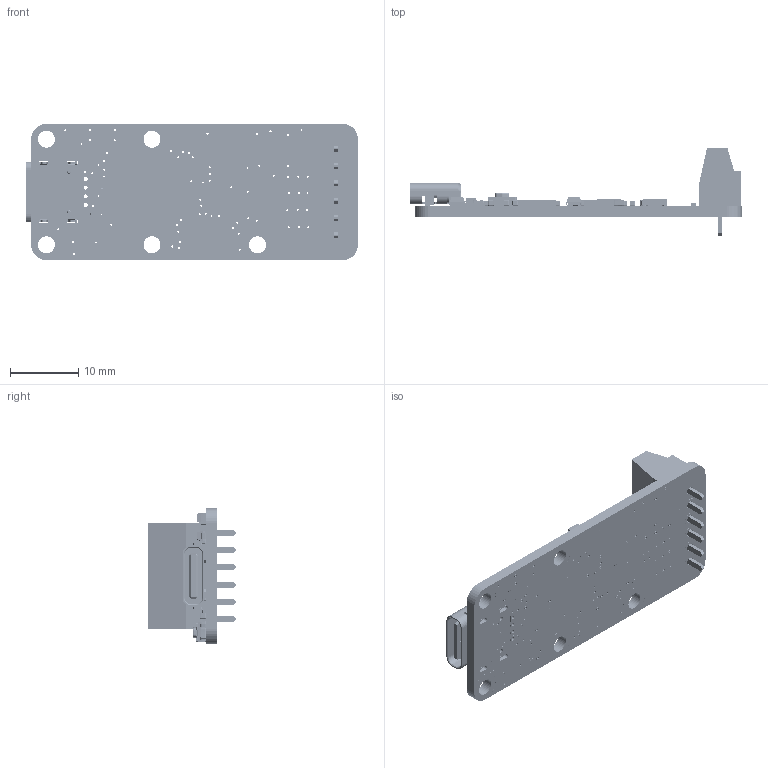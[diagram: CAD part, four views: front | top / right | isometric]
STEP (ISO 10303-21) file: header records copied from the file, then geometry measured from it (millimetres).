
FILE_DESCRIPTION (( 'STEP AP214' ), '1' );
FILE_NAME ('YSPIMK1C.STEP', '2025-12-29T15:49:41', ( '' ), ( '' ), 'SwSTEP 2.0', 'SolidWorks 2008', '' );
FILE_SCHEMA (( 'AUTOMOTIVE_DESIGN' ));
Length unit declared in the file: millimetre
Products named in the file (28): C19; R8; R18; R13; REG1; USB1; C16; YBUTTON; PCB; YLED; alim2_D; iSENSE; C18; YSPIMK1C; REG2_D; P1; FLASH1; R23; R28; R15; IO1; C1; C13; CPU1; R1; C27; LEDTX; R2
Assembly tree (46 placements, depth 2):
  YSPIMK1C
    R1
    C27  x14
    C19
    iSENSE
    C18  x2
    REG1
    R18  x2
    R23  x2
    FLASH1
    R2
    IO1
    USB1
    REG2_D
    alim2_D  x2
    C13
    CPU1
    R8
    R28
    R15
    R13  x3
    YBUTTON
    C1
    YLED
    LEDTX
    C16
    P1
    PCB
Bounding box: 48.75 x 12.9 x 20 mm (x, y, z)
Volume: 2438.9 mm3; surface area: 4318.6 mm2
Topology: 56 solids, 56 shells, 7393 faces, 19222 edges, 12423 vertices
Faces by surface type: plane 4675, cylinder 1834, bspline 705, sphere 160, cone 12, torus 7
Entity records: 290852 total; most frequent: CARTESIAN_POINT 71832, ORIENTED_EDGE 33464, DIRECTION 30073, EDGE_CURVE 16732, LINE 12341, VECTOR 12341, VERTEX_POINT 11047, AXIS2_PLACEMENT_3D 8866
